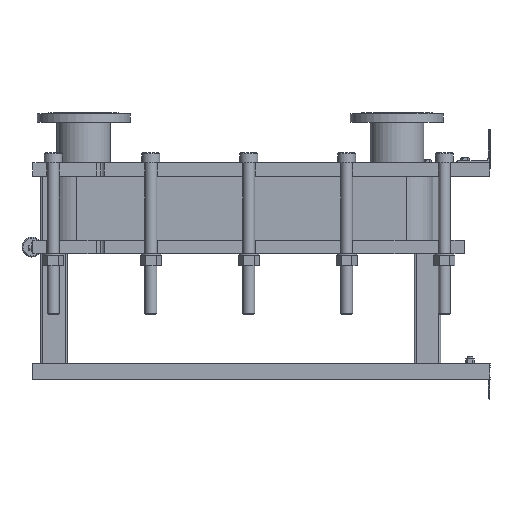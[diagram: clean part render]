
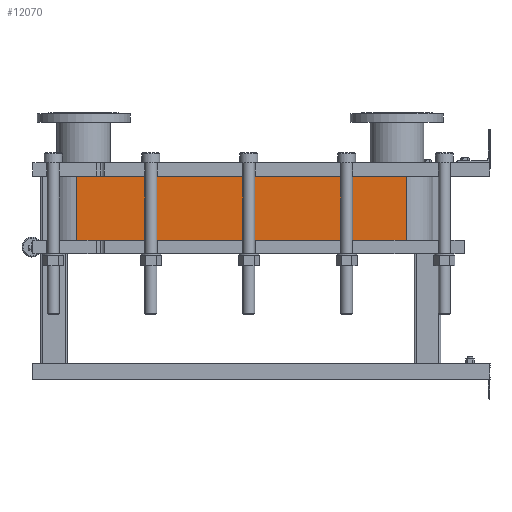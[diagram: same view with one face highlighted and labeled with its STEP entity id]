
A CAD part, left-side view. The second image highlights one B-rep face of the part: STEP entity #12070.
In plain terms, the highlighted planar face has unit normal (-1, 0, 0).
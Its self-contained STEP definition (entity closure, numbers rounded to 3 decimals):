
#1064=LINE('',#21140,#2164);
#1065=LINE('',#21144,#2165);
#1066=LINE('',#21146,#2166);
#1067=LINE('',#21147,#2167);
#2164=VECTOR('',#15790,10.);
#2165=VECTOR('',#15795,10.);
#2166=VECTOR('',#15796,10.);
#2167=VECTOR('',#15797,10.);
#3304=FACE_OUTER_BOUND('',#4091,.T.);
#4091=EDGE_LOOP('',(#9793,#9794,#9795,#9796));
#5677=VERTEX_POINT('',#21137);
#5678=VERTEX_POINT('',#21139);
#5679=VERTEX_POINT('',#21143);
#5680=VERTEX_POINT('',#21145);
#7118=EDGE_CURVE('',#5678,#5677,#1064,.T.);
#7120=EDGE_CURVE('',#5677,#5679,#1065,.T.);
#7121=EDGE_CURVE('',#5680,#5679,#1066,.T.);
#7122=EDGE_CURVE('',#5680,#5678,#1067,.T.);
#9793=ORIENTED_EDGE('',*,*,#7120,.T.);
#9794=ORIENTED_EDGE('',*,*,#7121,.F.);
#9795=ORIENTED_EDGE('',*,*,#7122,.T.);
#9796=ORIENTED_EDGE('',*,*,#7118,.T.);
#11441=PLANE('',#13191);
#12070=ADVANCED_FACE('',(#3304),#11441,.T.);
#13191=AXIS2_PLACEMENT_3D('',#21142,#15793,#15794);
#15790=DIRECTION('',(0.,0.,-1.));
#15793=DIRECTION('center_axis',(-1.,0.,0.));
#15794=DIRECTION('ref_axis',(0.,1.,0.));
#15795=DIRECTION('',(0.,-1.,0.));
#15796=DIRECTION('',(0.,0.,-1.));
#15797=DIRECTION('',(0.,1.,0.));
#21137=CARTESIAN_POINT('',(-248.152,1243.818,-193.2));
#21139=CARTESIAN_POINT('',(-248.152,1243.818,0.));
#21140=CARTESIAN_POINT('',(-248.152,1243.818,0.));
#21142=CARTESIAN_POINT('Origin',(-248.152,251.818,0.));
#21143=CARTESIAN_POINT('',(-248.152,251.818,-193.2));
#21144=CARTESIAN_POINT('',(-248.152,499.818,-193.2));
#21145=CARTESIAN_POINT('',(-248.152,251.818,0.));
#21146=CARTESIAN_POINT('',(-248.152,251.818,0.));
#21147=CARTESIAN_POINT('',(-248.152,251.818,0.));
